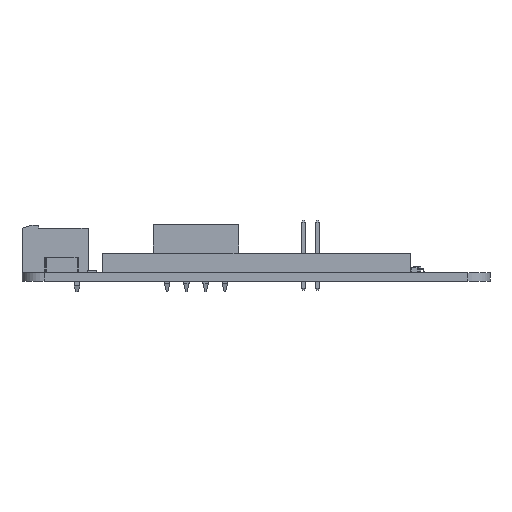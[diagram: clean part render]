
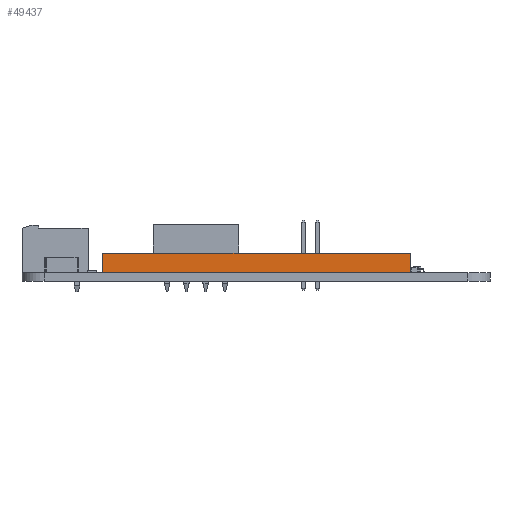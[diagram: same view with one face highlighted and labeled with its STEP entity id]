
A CAD part, front view. The second image highlights one B-rep face of the part: STEP entity #49437.
In plain terms, the highlighted planar face has unit normal (0, -1, 0) as drawn and (0, 0, -1) by its records, which use the part's own axes.
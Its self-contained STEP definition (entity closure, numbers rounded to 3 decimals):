
#41840 = VERTEX_POINT('',#41841);
#41841 = CARTESIAN_POINT('',(-27.94,3.505,-2.54));
#41847 = EDGE_CURVE('',#41840,#41848,#41850,.T.);
#41848 = VERTEX_POINT('',#41849);
#41849 = CARTESIAN_POINT('',(-27.94,0.,-2.54));
#41850 = LINE('',#41851,#41852);
#41851 = CARTESIAN_POINT('',(-27.94,3.505,-2.54));
#41852 = VECTOR('',#41853,1.);
#41853 = DIRECTION('',(0.,-1.,0.));
#41937 = VERTEX_POINT('',#41938);
#41938 = CARTESIAN_POINT('',(27.94,0.,-2.54));
#41944 = EDGE_CURVE('',#41945,#41937,#41947,.T.);
#41945 = VERTEX_POINT('',#41946);
#41946 = CARTESIAN_POINT('',(27.94,3.505,-2.54));
#41947 = LINE('',#41948,#41949);
#41948 = CARTESIAN_POINT('',(27.94,3.505,-2.54));
#41949 = VECTOR('',#41950,1.);
#41950 = DIRECTION('',(0.,-1.,0.));
#47156 = EDGE_CURVE('',#41945,#41840,#47157,.T.);
#47157 = LINE('',#47158,#47159);
#47158 = CARTESIAN_POINT('',(27.94,3.505,-2.54));
#47159 = VECTOR('',#47160,1.);
#47160 = DIRECTION('',(-1.,0.,0.));
#49437 = ADVANCED_FACE('',(#49438),#49449,.F.);
#49438 = FACE_BOUND('',#49439,.T.);
#49439 = EDGE_LOOP('',(#49440,#49446,#49447,#49448));
#49440 = ORIENTED_EDGE('',*,*,#49441,.T.);
#49441 = EDGE_CURVE('',#41937,#41848,#49442,.T.);
#49442 = LINE('',#49443,#49444);
#49443 = CARTESIAN_POINT('',(27.94,0.,-2.54));
#49444 = VECTOR('',#49445,1.);
#49445 = DIRECTION('',(-1.,0.,0.));
#49446 = ORIENTED_EDGE('',*,*,#41847,.F.);
#49447 = ORIENTED_EDGE('',*,*,#47156,.F.);
#49448 = ORIENTED_EDGE('',*,*,#41944,.T.);
#49449 = PLANE('',#49450);
#49450 = AXIS2_PLACEMENT_3D('',#49451,#49452,#49453);
#49451 = CARTESIAN_POINT('',(27.94,3.505,-2.54));
#49452 = DIRECTION('',(0.,0.,1.));
#49453 = DIRECTION('',(1.,0.,0.));
